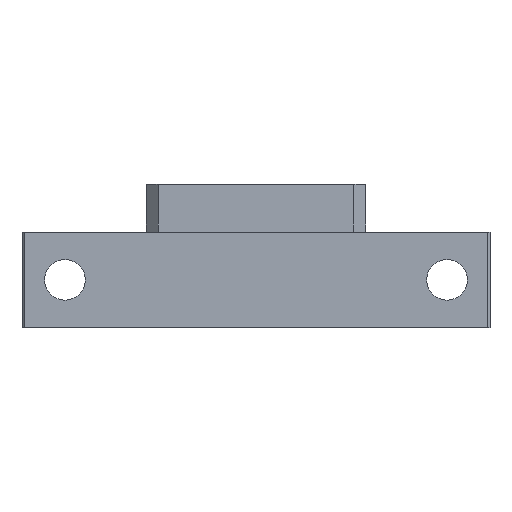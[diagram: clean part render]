
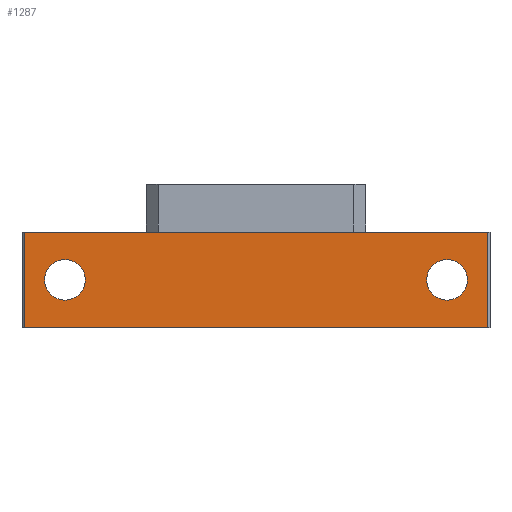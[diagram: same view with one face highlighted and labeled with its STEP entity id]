
A CAD part, front view. The second image highlights one B-rep face of the part: STEP entity #1287.
In plain terms, the highlighted planar face has unit normal (0, -1, 0).
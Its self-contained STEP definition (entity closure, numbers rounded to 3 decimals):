
#15 = DIRECTION ( 'NONE',  ( 0., -1., 0. ) ) ;
#38 = EDGE_CURVE ( 'NONE', #2338, #352, #5023, .T. ) ;
#101 = CARTESIAN_POINT ( 'NONE',  ( -40., -31., 14.25 ) ) ;
#119 = DIRECTION ( 'NONE',  ( 0., 0., -1. ) ) ;
#278 = VERTEX_POINT ( 'NONE', #4411 ) ;
#306 = AXIS2_PLACEMENT_3D ( 'NONE', #4404, #15, #2405 ) ;
#310 = CARTESIAN_POINT ( 'NONE',  ( 40., -31., 10. ) ) ;
#352 = VERTEX_POINT ( 'NONE', #101 ) ;
#371 = EDGE_CURVE ( 'NONE', #1989, #1438, #1281, .T. ) ;
#388 = VERTEX_POINT ( 'NONE', #1655 ) ;
#474 = FACE_BOUND ( 'NONE', #3395, .T. ) ;
#517 = ORIENTED_EDGE ( 'NONE', *, *, #1877, .T. ) ;
#547 = FACE_BOUND ( 'NONE', #4261, .T. ) ;
#754 = VECTOR ( 'NONE', #2156, 1000. ) ;
#957 = PLANE ( 'NONE',  #2911 ) ;
#963 = ORIENTED_EDGE ( 'NONE', *, *, #38, .F. ) ;
#1019 = AXIS2_PLACEMENT_3D ( 'NONE', #1775, #4194, #1826 ) ;
#1281 = LINE ( 'NONE', #4107, #754 ) ;
#1287 = ADVANCED_FACE ( 'NONE', ( #547, #474, #2598 ), #957, .F. ) ;
#1438 = VERTEX_POINT ( 'NONE', #4264 ) ;
#1540 = CIRCLE ( 'NONE', #3544, 4.25 ) ;
#1543 = EDGE_CURVE ( 'NONE', #278, #4298, #4405, .T. ) ;
#1655 = CARTESIAN_POINT ( 'NONE',  ( -48.5, -31., 20. ) ) ;
#1656 = CARTESIAN_POINT ( 'NONE',  ( -48.5, -31., 0. ) ) ;
#1775 = CARTESIAN_POINT ( 'NONE',  ( -40., -31., 10. ) ) ;
#1791 = VECTOR ( 'NONE', #3251, 1000. ) ;
#1826 = DIRECTION ( 'NONE',  ( 0., 0., 1. ) ) ;
#1877 = EDGE_CURVE ( 'NONE', #4331, #1438, #4412, .T. ) ;
#1962 = VECTOR ( 'NONE', #119, 1000. ) ;
#1989 = VERTEX_POINT ( 'NONE', #2103 ) ;
#2103 = CARTESIAN_POINT ( 'NONE',  ( 48.5, -31., 20. ) ) ;
#2104 = CARTESIAN_POINT ( 'NONE',  ( 40., -31., 14.25 ) ) ;
#2156 = DIRECTION ( 'NONE',  ( 0., 0., -1. ) ) ;
#2338 = VERTEX_POINT ( 'NONE', #4041 ) ;
#2354 = DIRECTION ( 'NONE',  ( 0., 1., 0. ) ) ;
#2405 = DIRECTION ( 'NONE',  ( 0., 0., 1. ) ) ;
#2598 = FACE_OUTER_BOUND ( 'NONE', #3860, .T. ) ;
#2884 = CARTESIAN_POINT ( 'NONE',  ( -48.5, -31., 0. ) ) ;
#2911 = AXIS2_PLACEMENT_3D ( 'NONE', #4239, #4927, #3809 ) ;
#2925 = ORIENTED_EDGE ( 'NONE', *, *, #371, .F. ) ;
#2975 = CARTESIAN_POINT ( 'NONE',  ( -48.5, -31., 20. ) ) ;
#3058 = DIRECTION ( 'NONE',  ( 1., 0., 0. ) ) ;
#3065 = DIRECTION ( 'NONE',  ( 0., 0., 1. ) ) ;
#3106 = CARTESIAN_POINT ( 'NONE',  ( 40., -31., 10. ) ) ;
#3112 = LINE ( 'NONE', #5123, #3296 ) ;
#3129 = ORIENTED_EDGE ( 'NONE', *, *, #4702, .F. ) ;
#3156 = ORIENTED_EDGE ( 'NONE', *, *, #4934, .T. ) ;
#3251 = DIRECTION ( 'NONE',  ( 1., 0., 0. ) ) ;
#3296 = VECTOR ( 'NONE', #3058, 1000. ) ;
#3395 = EDGE_LOOP ( 'NONE', ( #3565, #3738 ) ) ;
#3462 = CIRCLE ( 'NONE', #306, 4.25 ) ;
#3544 = AXIS2_PLACEMENT_3D ( 'NONE', #3106, #2354, #4231 ) ;
#3565 = ORIENTED_EDGE ( 'NONE', *, *, #4644, .T. ) ;
#3738 = ORIENTED_EDGE ( 'NONE', *, *, #1543, .T. ) ;
#3809 = DIRECTION ( 'NONE',  ( 0., 0., 1. ) ) ;
#3860 = EDGE_LOOP ( 'NONE', ( #517, #2925, #3923, #3156 ) ) ;
#3923 = ORIENTED_EDGE ( 'NONE', *, *, #4173, .F. ) ;
#3990 = AXIS2_PLACEMENT_3D ( 'NONE', #310, #4679, #3065 ) ;
#4041 = CARTESIAN_POINT ( 'NONE',  ( -40., -31., 5.75 ) ) ;
#4107 = CARTESIAN_POINT ( 'NONE',  ( 48.5, -31., 20. ) ) ;
#4173 = EDGE_CURVE ( 'NONE', #388, #1989, #3112, .T. ) ;
#4194 = DIRECTION ( 'NONE',  ( 0., -1., 0. ) ) ;
#4231 = DIRECTION ( 'NONE',  ( 0., 0., 1. ) ) ;
#4239 = CARTESIAN_POINT ( 'NONE',  ( -48.5, -31., 20. ) ) ;
#4261 = EDGE_LOOP ( 'NONE', ( #3129, #963 ) ) ;
#4264 = CARTESIAN_POINT ( 'NONE',  ( 48.5, -31., 0. ) ) ;
#4298 = VERTEX_POINT ( 'NONE', #2104 ) ;
#4331 = VERTEX_POINT ( 'NONE', #2884 ) ;
#4404 = CARTESIAN_POINT ( 'NONE',  ( -40., -31., 10. ) ) ;
#4405 = CIRCLE ( 'NONE', #3990, 4.25 ) ;
#4411 = CARTESIAN_POINT ( 'NONE',  ( 40., -31., 5.75 ) ) ;
#4412 = LINE ( 'NONE', #1656, #1791 ) ;
#4644 = EDGE_CURVE ( 'NONE', #4298, #278, #1540, .T. ) ;
#4679 = DIRECTION ( 'NONE',  ( 0., 1., 0. ) ) ;
#4702 = EDGE_CURVE ( 'NONE', #352, #2338, #3462, .T. ) ;
#4884 = LINE ( 'NONE', #2975, #1962 ) ;
#4927 = DIRECTION ( 'NONE',  ( 0., 1., 0. ) ) ;
#4934 = EDGE_CURVE ( 'NONE', #388, #4331, #4884, .T. ) ;
#5023 = CIRCLE ( 'NONE', #1019, 4.25 ) ;
#5123 = CARTESIAN_POINT ( 'NONE',  ( -48.5, -31., 20. ) ) ;
